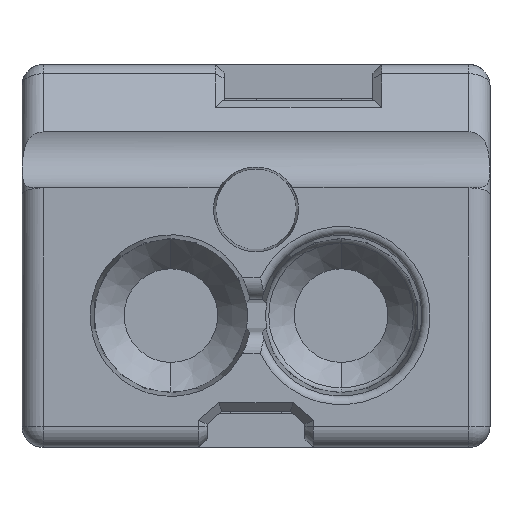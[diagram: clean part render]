
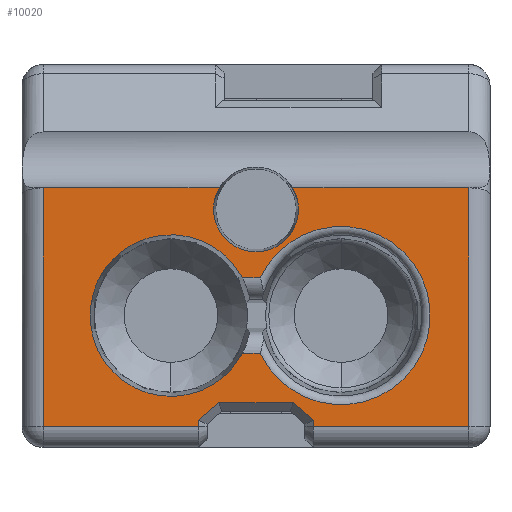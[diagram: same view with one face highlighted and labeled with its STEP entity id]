
A CAD part, front view. The second image highlights one B-rep face of the part: STEP entity #10020.
In plain terms, the highlighted planar face has unit normal (0, -1, 0).
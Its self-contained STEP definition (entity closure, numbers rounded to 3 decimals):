
#3050=CARTESIAN_POINT('',(48.715,34.735,5.6));
#3060=VERTEX_POINT('',#3050);
#3220=CARTESIAN_POINT('',(46.715,34.735,5.6));
#3230=VERTEX_POINT('',#3220);
#3260=CARTESIAN_POINT('',(47.715,34.735,5.6));
#3270=DIRECTION('',(0.,-1.,0.));
#3280=DIRECTION('',(-1.,0.,0.));
#3290=AXIS2_PLACEMENT_3D('',#3260,#3270,#3280);
#3300=CIRCLE('',#3290,1.);
#3310=CARTESIAN_POINT('',(46.849,34.735,6.1));
#3320=VERTEX_POINT('',#3310);
#3330=EDGE_CURVE('',#3320,#3230,#3300,.T.);
#3720=CARTESIAN_POINT('',(48.581,34.735,6.1));
#3730=VERTEX_POINT('',#3720);
#3760=EDGE_CURVE('',#3060,#3730,#3300,.T.);
#3820=CARTESIAN_POINT('',(41.115,34.735,6.1));
#3830=DIRECTION('',(1.,0.,0.));
#3840=VECTOR('',#3830,1.);
#3850=LINE('',#3820,#3840);
#3860=CARTESIAN_POINT('',(42.715,34.735,6.1));
#3870=VERTEX_POINT('',#3860);
#3880=EDGE_CURVE('',#3870,#3320,#3850,.T.);
#4690=CARTESIAN_POINT('',(52.715,34.735,6.1));
#4700=VERTEX_POINT('',#4690);
#4730=CARTESIAN_POINT('',(41.115,34.735,6.1));
#4740=DIRECTION('',(1.,0.,0.));
#4750=VECTOR('',#4740,1.);
#4760=LINE('',#4730,#4750);
#4770=EDGE_CURVE('',#3730,#4700,#4760,.T.);
#5440=CARTESIAN_POINT('',(52.715,34.735,47.715));
#5450=DIRECTION('',(0.,0.,-1.));
#5460=VECTOR('',#5450,1.);
#5470=LINE('',#5440,#5460);
#5480=CARTESIAN_POINT('',(52.715,34.735,0.5));
#5490=VERTEX_POINT('',#5480);
#5500=EDGE_CURVE('',#4700,#5490,#5470,.T.);
#8050=EDGE_CURVE('',#3230,#3060,#3300,.T.);
#8910=CARTESIAN_POINT('',(47.715,34.735,0.));
#8920=DIRECTION('',(-0.,-1.,0.));
#8930=DIRECTION('',(0.,0.,1.));
#8940=AXIS2_PLACEMENT_3D('',#8910,#8920,#8930);
#8950=PLANE('',#8940);
#8960=CARTESIAN_POINT('',(47.715,34.735,3.987));
#8970=DIRECTION('',(1.,0.,0.));
#8980=VECTOR('',#8970,1.);
#8990=LINE('',#8960,#8980);
#9000=CARTESIAN_POINT('',(47.396,34.735,3.987));
#9010=VERTEX_POINT('',#9000);
#9020=CARTESIAN_POINT('',(47.818,34.735,3.987));
#9030=VERTEX_POINT('',#9020);
#9040=EDGE_CURVE('',#9010,#9030,#8990,.T.);
#9050=ORIENTED_EDGE('',*,*,#9040,.T.);
#9060=CARTESIAN_POINT('',(45.715,34.735,3.1));
#9070=DIRECTION('',(0.,-1.,0.));
#9080=DIRECTION('',(0.,0.,1.));
#9090=AXIS2_PLACEMENT_3D('',#9060,#9070,#9080);
#9100=CIRCLE('',#9090,1.9);
#9110=CARTESIAN_POINT('',(47.396,34.735,2.213));
#9120=VERTEX_POINT('',#9110);
#9130=EDGE_CURVE('',#9010,#9120,#9100,.T.);
#9140=ORIENTED_EDGE('',*,*,#9130,.F.);
#9150=CARTESIAN_POINT('',(47.715,34.735,2.213));
#9160=DIRECTION('',(-1.,0.,0.));
#9170=VECTOR('',#9160,1.);
#9180=LINE('',#9150,#9170);
#9190=CARTESIAN_POINT('',(47.818,34.735,2.213));
#9200=VERTEX_POINT('',#9190);
#9210=EDGE_CURVE('',#9200,#9120,#9180,.T.);
#9220=ORIENTED_EDGE('',*,*,#9210,.T.);
#9230=CARTESIAN_POINT('',(49.715,34.735,3.1));
#9240=DIRECTION('',(0.,-1.,0.));
#9250=DIRECTION('',(0.,0.,1.));
#9260=AXIS2_PLACEMENT_3D('',#9230,#9240,#9250);
#9270=CIRCLE('',#9260,2.095);
#9280=EDGE_CURVE('',#9200,#9030,#9270,.T.);
#9290=ORIENTED_EDGE('',*,*,#9280,.F.);
#9300=EDGE_LOOP('',(#9290,#9220,#9140,#9050));
#9310=FACE_BOUND('',#9300,.T.);
#9320=CARTESIAN_POINT('',(42.715,34.735,47.715));
#9330=DIRECTION('',(0.,0.,-1.));
#9340=VECTOR('',#9330,1.);
#9350=LINE('',#9320,#9340);
#9360=CARTESIAN_POINT('',(42.715,34.735,0.5));
#9370=VERTEX_POINT('',#9360);
#9380=EDGE_CURVE('',#3870,#9370,#9350,.T.);
#9390=ORIENTED_EDGE('',*,*,#9380,.T.);
#9400=ORIENTED_EDGE('',*,*,#3880,.F.);
#9410=ORIENTED_EDGE('',*,*,#3330,.F.);
#9420=ORIENTED_EDGE('',*,*,#8050,.F.);
#9430=ORIENTED_EDGE('',*,*,#3760,.F.);
#9440=ORIENTED_EDGE('',*,*,#4770,.F.);
#9450=ORIENTED_EDGE('',*,*,#5500,.F.);
#9460=CARTESIAN_POINT('',(47.715,34.735,0.5));
#9470=DIRECTION('',(1.,0.,0.));
#9480=VECTOR('',#9470,1.);
#9490=LINE('',#9460,#9480);
#9500=CARTESIAN_POINT('',(49.065,34.735,0.5));
#9510=VERTEX_POINT('',#9500);
#9520=EDGE_CURVE('',#9510,#5490,#9490,.T.);
#9530=ORIENTED_EDGE('',*,*,#9520,.T.);
#9540=CARTESIAN_POINT('',(49.065,34.735,0.657));
#9550=DIRECTION('',(0.,0.,1.));
#9560=VECTOR('',#9550,1.);
#9570=LINE('',#9540,#9560);
#9580=CARTESIAN_POINT('',(49.065,34.735,0.642));
#9590=VERTEX_POINT('',#9580);
#9600=EDGE_CURVE('',#9510,#9590,#9570,.T.);
#9610=ORIENTED_EDGE('',*,*,#9600,.F.);
#9620=CARTESIAN_POINT('',(48.704,34.735,0.952))
;
#9630=DIRECTION('',(-0.759,0.,0.651));
#9640=VECTOR('',#9630,1.);
#9650=LINE('',#9620,#9640);
#9660=CARTESIAN_POINT('',(48.589,34.735,1.05));
#9670=VERTEX_POINT('',#9660);
#9680=EDGE_CURVE('',#9590,#9670,#9650,.T.);
#9690=ORIENTED_EDGE('',*,*,#9680,.F.);
#9700=CARTESIAN_POINT('',(47.715,34.735,1.05));
#9710=DIRECTION('',(-1.,0.,0.));
#9720=VECTOR('',#9710,1.);
#9730=LINE('',#9700,#9720);
#9740=CARTESIAN_POINT('',(46.841,34.735,1.05));
#9750=VERTEX_POINT('',#9740);
#9760=EDGE_CURVE('',#9670,#9750,#9730,.T.);
#9770=ORIENTED_EDGE('',*,*,#9760,.F.);
#9780=CARTESIAN_POINT('',(46.727,34.735,0.952))
;
#9790=DIRECTION('',(0.759,0.,0.651));
#9800=VECTOR('',#9790,1.);
#9810=LINE('',#9780,#9800);
#9820=CARTESIAN_POINT('',(46.365,34.735,0.642));
#9830=VERTEX_POINT('',#9820);
#9840=EDGE_CURVE('',#9830,#9750,#9810,.T.);
#9850=ORIENTED_EDGE('',*,*,#9840,.T.);
#9860=CARTESIAN_POINT('',(46.365,34.735,0.657));
#9870=DIRECTION('',(0.,0.,-1.));
#9880=VECTOR('',#9870,1.);
#9890=LINE('',#9860,#9880);
#9900=CARTESIAN_POINT('',(46.365,34.735,0.5));
#9910=VERTEX_POINT('',#9900);
#9920=EDGE_CURVE('',#9830,#9910,#9890,.T.);
#9930=ORIENTED_EDGE('',*,*,#9920,.F.);
#9940=CARTESIAN_POINT('',(47.715,34.735,0.5));
#9950=DIRECTION('',(1.,0.,0.));
#9960=VECTOR('',#9950,1.);
#9970=LINE('',#9940,#9960);
#9980=EDGE_CURVE('',#9370,#9910,#9970,.T.);
#9990=ORIENTED_EDGE('',*,*,#9980,.T.);
#10000=EDGE_LOOP('',(#9990,#9930,#9850,#9770,#9690,#9610,#9530,#9450,
#9440,#9430,#9420,#9410,#9400,#9390));
#10010=FACE_OUTER_BOUND('',#10000,.T.);
#10020=ADVANCED_FACE('',(#9310,#10010),#8950,.T.);
